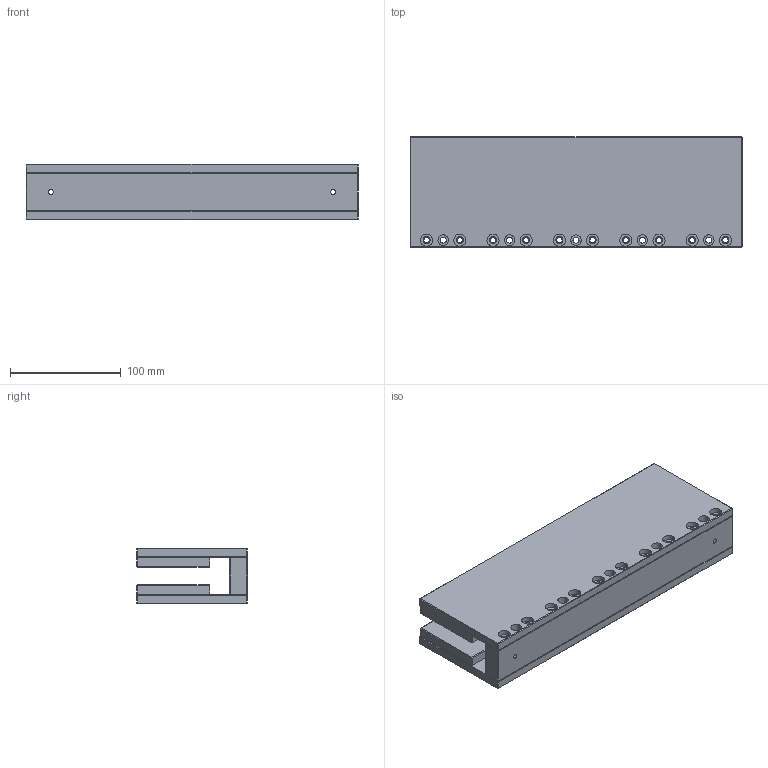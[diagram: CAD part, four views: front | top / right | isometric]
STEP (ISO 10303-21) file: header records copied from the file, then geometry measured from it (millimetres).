
FILE_DESCRIPTION (( 'STEP AP214' ), '1' );
FILE_NAME ('JKA5-300.STEP', '2025-09-05T08:47:58', ( '' ), ( '' ), 'SwSTEP 2.0', 'SolidWorks 2016', '' );
FILE_SCHEMA (( 'AUTOMOTIVE_DESIGN' ));
Length unit declared in the file: millimetre
Products named in the file (1): JKA5-300
Bounding box: 300 x 100 x 50 mm (x, y, z)
Volume: 946418.4 mm3; surface area: 280082.3 mm2
Topology: 23 solids, 23 shells, 736 faces, 1506 edges, 836 vertices
Faces by surface type: plane 594, cylinder 142
Entity records: 27022 total; most frequent: DIRECTION 3216, CARTESIAN_POINT 3175, ORIENTED_EDGE 3012, EDGE_CURVE 1506, LINE 1206, VECTOR 1206, AXIS2_PLACEMENT_3D 1005, EDGE_LOOP 850
